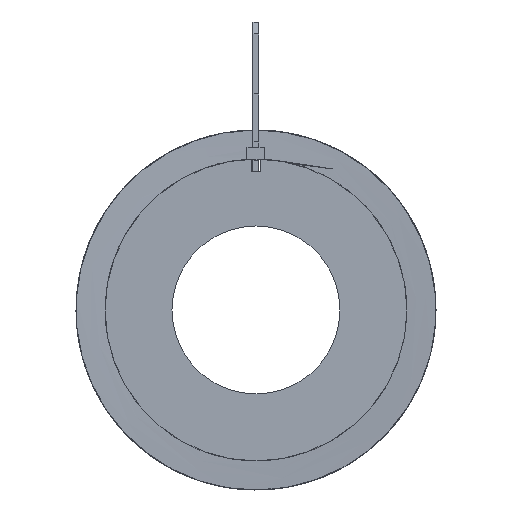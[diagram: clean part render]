
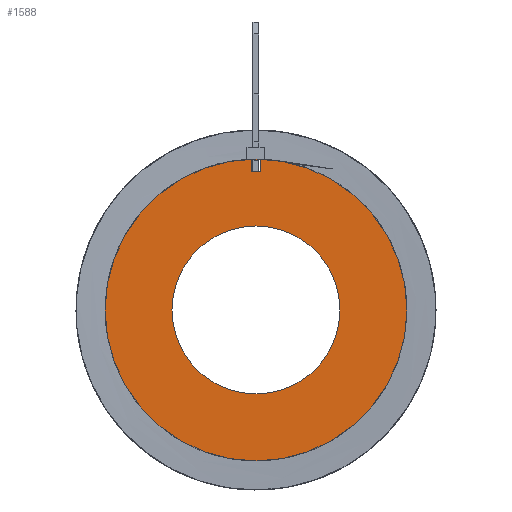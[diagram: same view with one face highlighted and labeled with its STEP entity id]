
A CAD part, front view. The second image highlights one B-rep face of the part: STEP entity #1588.
In plain terms, the highlighted planar face has unit normal (0, -1, 0).
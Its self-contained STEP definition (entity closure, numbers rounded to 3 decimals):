
#31=FACE_BOUND($,#307,.T.);
#32=FACE_BOUND($,#308,.T.);
#44=CIRCLE($,#1606,25.);
#49=CIRCLE($,#1613,25.15);
#70=CIRCLE($,#1700,14.);
#144=PLANE($,#1699);
#215=FACE_OUTER_BOUND($,#306,.T.);
#306=EDGE_LOOP($,(#1422));
#307=EDGE_LOOP($,(#1423,#1424,#1425,#1426));
#308=EDGE_LOOP($,(#1427));
#477=LINE($,#8890,#648);
#480=LINE($,#8896,#651);
#484=LINE($,#8902,#655);
#648=VECTOR($,#2075,1.989);
#651=VECTOR($,#2080,1.5);
#655=VECTOR($,#2086,1.989);
#686=VERTEX_POINT($,#8543);
#687=VERTEX_POINT($,#8545);
#692=VERTEX_POINT($,#8559);
#795=VERTEX_POINT($,#8889);
#797=VERTEX_POINT($,#8895);
#799=VERTEX_POINT($,#8904);
#831=EDGE_CURVE($,#687,#686,#44,.T.);
#838=EDGE_CURVE($,#692,#692,#49,.T.);
#1002=EDGE_CURVE($,#795,#687,#477,.T.);
#1005=EDGE_CURVE($,#797,#795,#480,.T.);
#1009=EDGE_CURVE($,#686,#797,#484,.T.);
#1010=EDGE_CURVE($,#799,#799,#70,.T.);
#1422=ORIENTED_EDGE($,*,*,#838,.T.);
#1423=ORIENTED_EDGE($,*,*,#1009,.T.);
#1424=ORIENTED_EDGE($,*,*,#1005,.T.);
#1425=ORIENTED_EDGE($,*,*,#1002,.T.);
#1426=ORIENTED_EDGE($,*,*,#831,.T.);
#1427=ORIENTED_EDGE($,*,*,#1010,.T.);
#1588=ADVANCED_FACE($,(#215,#31,#32),#144,.F.);
#1606=AXIS2_PLACEMENT_3D($,#8546,#1748,#1749);
#1613=AXIS2_PLACEMENT_3D($,#8560,#1764,#1765);
#1699=AXIS2_PLACEMENT_3D($,#8903,#2087,#2088);
#1700=AXIS2_PLACEMENT_3D($,#8905,#2089,#2090);
#1748=DIRECTION('center_axis',(0.,1.,0.));
#1749=DIRECTION('ref_axis',(1.,0.,0.));
#1764=DIRECTION('center_axis',(0.,-1.,0.));
#1765=DIRECTION('ref_axis',(1.,0.,0.));
#2075=DIRECTION($,(0.,0.,1.));
#2080=DIRECTION($,(-1.,0.,0.));
#2086=DIRECTION($,(0.,0.,-1.));
#2087=DIRECTION('center_axis',(0.,1.,0.));
#2088=DIRECTION('ref_axis',(0.,0.,1.));
#2089=DIRECTION('center_axis',(0.,1.,0.));
#2090=DIRECTION('ref_axis',(1.,0.,0.));
#8543=CARTESIAN_POINT('',(0.75,-150.,24.989));
#8545=CARTESIAN_POINT('',(-0.75,-150.,24.989));
#8546=CARTESIAN_POINT('Origin',(0.,-150.,0.));
#8559=CARTESIAN_POINT('',(-25.15,-150.,0.));
#8560=CARTESIAN_POINT('Origin',(0.,-150.,0.));
#8889=CARTESIAN_POINT('',(-0.75,-150.,23.));
#8890=CARTESIAN_POINT($,(-0.75,-150.,12.85));
#8895=CARTESIAN_POINT('',(0.75,-150.,23.));
#8896=CARTESIAN_POINT($,(-0.375,-150.,23.));
#8902=CARTESIAN_POINT($,(0.75,-150.,11.5));
#8903=CARTESIAN_POINT('Origin',(0.,-150.,0.));
#8904=CARTESIAN_POINT('',(-14.,-150.,0.));
#8905=CARTESIAN_POINT('Origin',(0.,-150.,0.));
